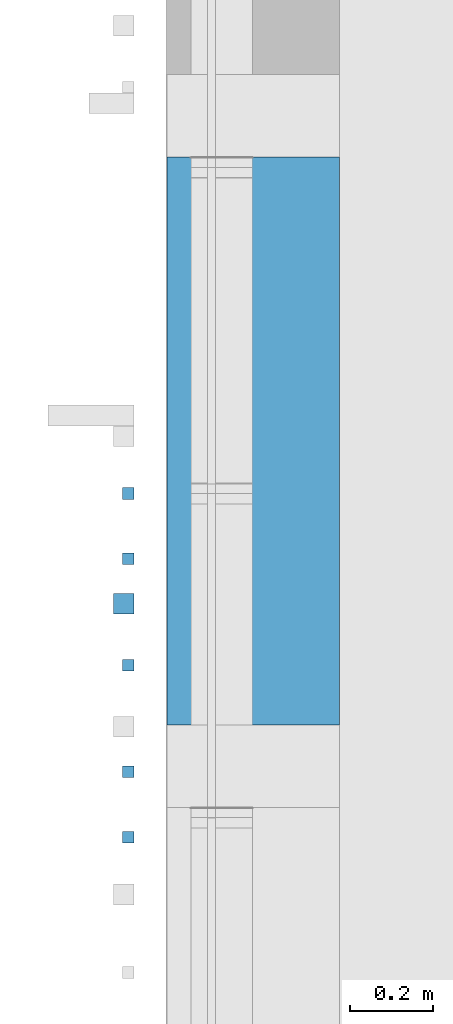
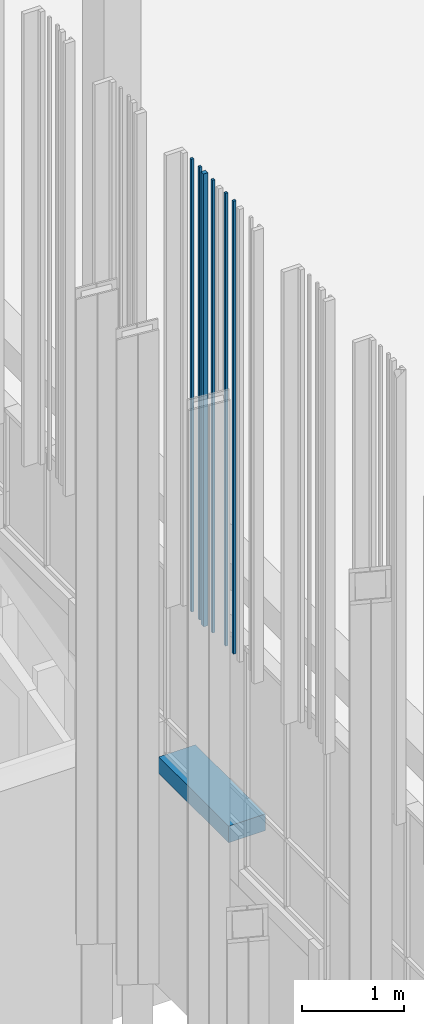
# One storey, part 115 of 390: 7 walls.
"""IFC2X3 building model written with IfcOpenShell, lengths in millimetres."""

from ifc_helpers import new_model, entity, si_unit, converted_unit, derived_unit, money_unit, direction, frame, origin_with_axes, place, context, subcontext, project, spatial, faceted_brep, material, material_list, type_object, element, save


model = new_model("IFC2X3")

# Units and contexts
model_context = context("Model", 3, precision=1e-05, world=origin_with_axes(), true_north=direction((0.0, 1.0)))
body_context = subcontext(model_context, "Body", "Model", "MODEL_VIEW")
ifc_project = project(units=[si_unit("LENGTHUNIT", "METRE", prefix="MILLI"), si_unit("AREAUNIT", "SQUARE_METRE"), si_unit("VOLUMEUNIT", "CUBIC_METRE"), converted_unit("PLANEANGLEUNIT", "DEGREE", entity("IfcPlaneAngleMeasure", 0.0174532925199), si_unit("PLANEANGLEUNIT", "RADIAN"), dimensions=[0, 0, 0, 0, 0, 0, 0]), si_unit("SOLIDANGLEUNIT", "STERADIAN"), money_unit("EUR"), converted_unit("TIMEUNIT", "Year", entity("IfcTimeMeasure", 31556926.0), si_unit("TIMEUNIT", "SECOND"), dimensions=[0, 0, 1, 0, 0, 0, 0]), si_unit("MASSUNIT", "GRAM", prefix="KILO"), si_unit("THERMODYNAMICTEMPERATUREUNIT", "DEGREE_CELSIUS"), si_unit("LUMINOUSINTENSITYUNIT", "LUMEN"), si_unit("ENERGYUNIT", "JOULE", prefix="MEGA"), derived_unit("THERMALCONDUCTANCEUNIT", [(si_unit("POWERUNIT", "WATT"), 1), (si_unit("LENGTHUNIT", "METRE"), -1), (si_unit("THERMODYNAMICTEMPERATUREUNIT", "KELVIN"), -1)]), derived_unit("SPECIFICHEATCAPACITYUNIT", [(si_unit("ENERGYUNIT", "JOULE"), 1), (si_unit("MASSUNIT", "GRAM", prefix="KILO"), -1), (si_unit("THERMODYNAMICTEMPERATUREUNIT", "KELVIN"), -1)]), derived_unit("MASSDENSITYUNIT", [(si_unit("MASSUNIT", "GRAM", prefix="KILO"), 1), (si_unit("VOLUMEUNIT", "CUBIC_METRE"), -1)])], contexts=[model_context])

# Site, building, storey
site_placement = place(None, origin_with_axes())
site = spatial("IfcSite", under=ifc_project, at=site_placement, Name="Site", CompositionType="ELEMENT")
building_placement = place(site_placement, origin_with_axes())
building = spatial("IfcBuilding", under=site, at=building_placement, Name="Building", CompositionType="ELEMENT")
storey_placement = place(building_placement, origin_with_axes())
storey = spatial("IfcBuildingStorey", under=building, at=storey_placement, Name="1 korrus", CompositionType="ELEMENT", Elevation=0.0)

# Walls
ifc_material_1 = material(Name="Site specified")
wall_type_1 = type_object("IfcWallType", Name="Puitfassaadi ribistik", PredefinedType="NOTDEFINED")
for number, where, z_axis, x_axis, name in (
    (1, (122398.999996, 56398.9997856, 4424.99966101), (0.0, 0.0, 1.0), (0.0, 1.0, 0.0), "Site specified"),
    (2, (122398.999996, 56240.9997856, 4424.99966101), (0.0, 0.0, 1.0), (0.0, 1.0, 0.0), "Site specified"),
):
    element("IfcWall", number, at=place(storey_placement, frame(where, z_axis=z_axis, x_axis=x_axis)), inside=storey, type_object=wall_type_1, material=ifc_material_1, Name=name, context=body_context, shape_type="Brep", body=[
        faceted_brep([(-14.0, -14.0, 5440.00033899), (-14.0, -14.0, 0.0), (14.0, -14.0, 0.0), (14.0, -14.0, 5440.00033899), (-14.0, 14.0, 5440.00033899), (-14.0, 14.0, 0.0), (14.0, 14.0, 0.0), (14.0, 14.0, 5440.00033899)], [[[0, 1, 2, 3]], [[4, 5, 1, 0]], [[2, 1, 5, 6]], [[3, 2, 6, 7]], [[4, 0, 3, 7]], [[7, 6, 5, 4]]]),
    ])
wall_1_placement = place(storey_placement, frame((122398.999996, 57072.9997856, 4424.99966101), z_axis=(0.0, 0.0, 1.0), x_axis=(0.0, 1.0, 0.0)))
element("IfcWall", 3, at=wall_1_placement, inside=storey, type_object=wall_type_1, material=ifc_material_1, Name="Site specified", context=body_context, shape_type="Brep", body=[
    faceted_brep([(14.0, 14.0, 5440.00033899), (14.0, 14.0, 0.0), (-14.0, 14.0, 0.0), (-14.0, 14.0, 5440.00033899), (14.0, -14.0, 5440.00033899), (14.0, -14.0, 0.0), (-14.0, -14.0, 0.0), (-14.0, -14.0, 5440.00033899)], [[[0, 1, 2, 3]], [[4, 5, 1, 0]], [[2, 1, 5, 6]], [[3, 2, 6, 7]], [[4, 0, 3, 7]], [[7, 6, 5, 4]]]),
])
wall_2_placement = place(storey_placement, frame((122387.999996, 56805.9997856, 4424.99966101), z_axis=(0.0, 0.0, 1.0), x_axis=(0.0, 1.0, 0.0)))
element("IfcWall", 4, at=wall_2_placement, inside=storey, type_object=wall_type_1, material=ifc_material_1, Name="Site specified", context=body_context, shape_type="Brep", body=[
    faceted_brep([(25.0, 25.0, 5440.00033899), (25.0, 25.0, 0.0), (-25.0, 25.0, 0.0), (-25.0, 25.0, 5440.00033899), (25.0, -25.0, 5440.00033899), (25.0, -25.0, 0.0), (-25.0, -25.0, 0.0), (-25.0, -25.0, 5440.00033899)], [[[0, 1, 2, 3]], [[4, 5, 1, 0]], [[2, 1, 5, 6]], [[3, 2, 6, 7]], [[4, 0, 3, 7]], [[7, 6, 5, 4]]]),
])
for number, where, z_axis, x_axis, name in (
    (5, (122398.999996, 56914.9997856, 4424.99966101), (0.0, 0.0, 1.0), (0.0, 1.0, 0.0), "Site specified"),
    (6, (122398.999996, 56656.9997856, 4424.99966101), (0.0, 0.0, 1.0), (0.0, 1.0, 0.0), "Site specified"),
):
    element("IfcWall", number, at=place(storey_placement, frame(where, z_axis=z_axis, x_axis=x_axis)), inside=storey, type_object=wall_type_1, material=ifc_material_1, Name=name, context=body_context, shape_type="Brep", body=[
        faceted_brep([(14.0, 14.0, 5440.00033899), (14.0, 14.0, 0.0), (-14.0, 14.0, 0.0), (-14.0, 14.0, 5440.00033899), (14.0, -14.0, 5440.00033899), (14.0, -14.0, 0.0), (-14.0, -14.0, 0.0), (-14.0, -14.0, 5440.00033899)], [[[0, 1, 2, 3]], [[4, 5, 1, 0]], [[2, 1, 5, 6]], [[3, 2, 6, 7]], [[4, 0, 3, 7]], [[7, 6, 5, 4]]]),
    ])
ifc_material_2 = material(Name="Plaat - Sein")
ifc_material_3 = material(Name="Soojustus - Plastik Kõva")
ifc_material_4 = material(Name="Raudbetoon - Konstruktsioon")
ifc_material_5 = material(Name="Krohv - Lubjakivi")
ifc_material_list = material_list([ifc_material_2, ifc_material_3, ifc_material_3, ifc_material_4, ifc_material_5])
wall_type_2 = type_object("IfcWallType", Name="VS-05", PredefinedType="NOTDEFINED")
wall_3_placement = place(storey_placement, frame((122909.999995, 56512.5685601, 1950.0), z_axis=(0.0, 0.0, 1.0), x_axis=(0.0, 1.0, 0.0)))
element("IfcWall", 7, at=wall_3_placement, inside=storey, type_object=wall_type_2, material=ifc_material_list, Name="VS-05", context=body_context, shape_type="Brep", body=[
    faceted_brep([(1374.99999999, 418.000000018, 0.0), (1374.99999999, 410.000000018, 0.0), (-5.49249534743e-09, 410.0, 0.0), (-5.59907675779e-09, 418.0, 0.0), (1374.99999999, 418.000000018, 200.0), (1374.99999999, 410.000000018, 200.0), (-5.49249534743e-09, 410.0, 200.0), (-5.59907675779e-09, 418.0, 200.0)], [[[0, 1, 2, 3]], [[0, 4, 5, 1]], [[1, 5, 6, 2]], [[3, 2, 6, 7]], [[4, 0, 3, 7]], [[5, 4, 7, 6]]]),
    faceted_brep([(1374.99999999, 410.000000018, 0.0), (1375.0, 360.000000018, 0.0), (-4.82458517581e-09, 360.0, 0.0), (-5.49249534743e-09, 410.0, 0.0), (1374.99999999, 410.000000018, 200.0), (1375.0, 360.000000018, 200.0), (-4.82458517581e-09, 360.0, 200.0), (-5.49249534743e-09, 410.0, 200.0)], [[[0, 1, 2, 3]], [[0, 4, 5, 1]], [[1, 5, 6, 2]], [[3, 2, 6, 7]], [[4, 0, 3, 7]], [[5, 4, 7, 6]]]),
    faceted_brep([(1375.0, 360.000000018, 0.0), (1375.0, 210.000000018, 0.0), (-2.81374923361e-09, 210.0, 0.0), (-4.82458517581e-09, 360.0, 0.0), (1375.0, 360.000000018, 200.0), (1375.0, 210.000000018, 200.0), (-2.81374923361e-09, 210.0, 200.0), (-4.82458517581e-09, 360.0, 200.0)], [[[0, 1, 2, 3]], [[0, 4, 5, 1]], [[1, 5, 6, 2]], [[3, 2, 6, 7]], [[4, 0, 3, 7]], [[5, 4, 7, 6]]]),
    faceted_brep([(1375.0, 210.000000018, 0.0), (1375.0, 10.0000000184, 0.0), (-1.35003119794e-10, 10.0, 0.0), (-2.81374923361e-09, 210.0, 0.0), (1375.0, 210.000000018, 200.0), (1375.0, 10.0000000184, 200.0), (-1.35003119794e-10, 10.0, 200.0), (-2.81374923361e-09, 210.0, 200.0)], [[[0, 1, 2, 3]], [[0, 4, 5, 1]], [[1, 5, 6, 2]], [[3, 2, 6, 7]], [[4, 0, 3, 7]], [[5, 4, 7, 6]]]),
    faceted_brep([(1375.0, 10.0000000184, 0.0), (1375.0, 1.84314785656e-08, 0.0), (0.0, 0.0, 0.0), (-1.35003119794e-10, 10.0, 0.0), (1375.0, 10.0000000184, 200.0), (1375.0, 1.84314785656e-08, 200.0), (0.0, 0.0, 200.0), (-1.35003119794e-10, 10.0, 200.0)], [[[0, 1, 2, 3]], [[0, 4, 5, 1]], [[1, 5, 6, 2]], [[3, 2, 6, 7]], [[4, 0, 3, 7]], [[5, 4, 7, 6]]]),
])

save(model, "model.ifc")
